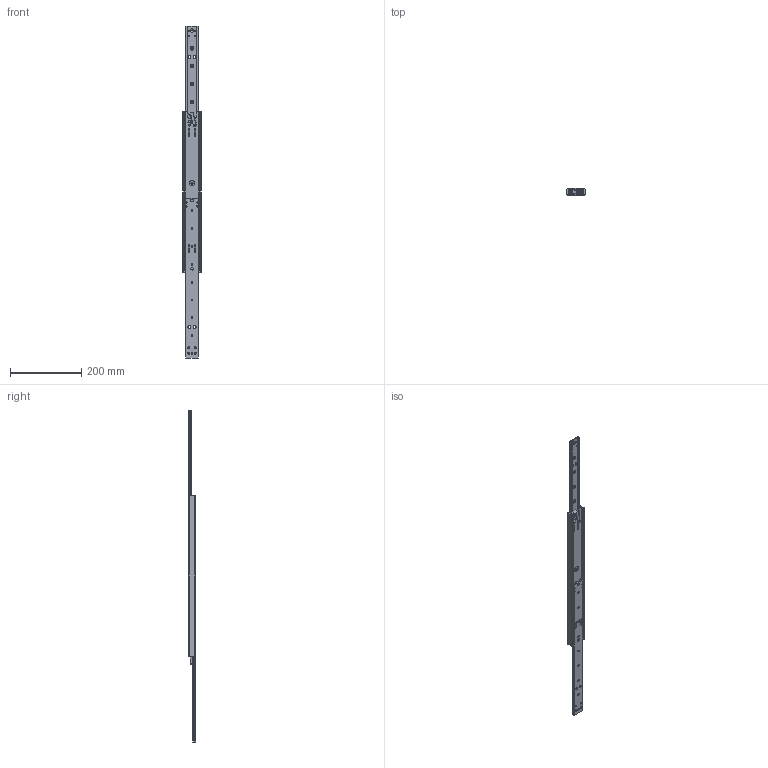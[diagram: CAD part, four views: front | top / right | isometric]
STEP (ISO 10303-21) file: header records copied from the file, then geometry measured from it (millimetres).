
FILE_DESCRIPTION (( 'STEP AP214' ), '1' );
FILE_NAME ('220-450-open.STEP', '2024-08-20T09:56:29', ( '' ), ( '' ), 'SwSTEP 2.0', 'SolidWorks 2024', '' );
FILE_SCHEMA (( 'AUTOMOTIVE_DESIGN' ));
Length unit declared in the file: millimetre
Products named in the file (12): 61_13331_Pin Fitted_7.STEP_Part80; 61_12276_7.STEP_Part88; 400_000_004_7.STEP_Part86; 301_000_008_Fitted_7.STEP_Part82; 61_12284_08_open.STEP_Assem15; 370_002_070_7.STEP_Part84; 61_12282_7.STEP_Part81; 61_12274_7.STEP_Part83; 220-450-open; 61_12278_11_1.STEP_Part87; 61_12280_08_Beam Assembled - Stop Raises _1.STEP_Part79; 61_12279_08_1.STEP_Part78
Assembly tree (26 placements, depth 3):
  220-450-open
    61_12284_08_open.STEP_Assem15
      61_12279_08_1.STEP_Part78
      61_12280_08_Beam Assembled - Stop Raises _1.STEP_Part79  x2
      61_13331_Pin Fitted_7.STEP_Part80  x4
      61_12282_7.STEP_Part81
      301_000_008_Fitted_7.STEP_Part82  x2
      61_12274_7.STEP_Part83
      370_002_070_7.STEP_Part84
      400_000_004_7.STEP_Part86  x8
      61_12278_11_1.STEP_Part87  x4
      61_12276_7.STEP_Part88
Bounding box: 50.7 x 19.75 x 930 mm (x, y, z)
Volume: 260186.7 mm3; surface area: 180374.3 mm2
Topology: 25 solids, 25 shells, 1317 faces, 3401 edges, 2120 vertices
Faces by surface type: cylinder 566, plane 287, sphere 257, cone 84, torus 77, bspline 46
Entity records: 29041 total; most frequent: CARTESIAN_POINT 8823, DIRECTION 4364, ORIENTED_EDGE 4102, EDGE_CURVE 2051, AXIS2_PLACEMENT_3D 1754, VERTEX_POINT 1269, CIRCLE 965, EDGE_LOOP 922
